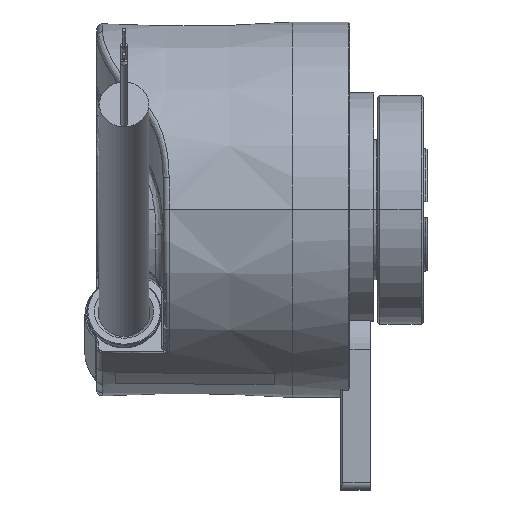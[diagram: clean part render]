
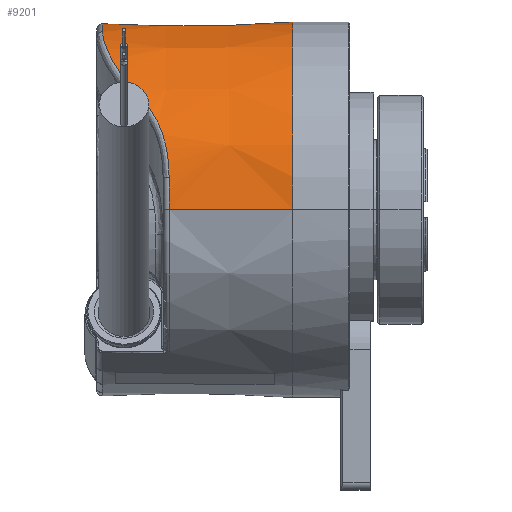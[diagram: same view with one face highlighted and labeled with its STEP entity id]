
A CAD part, top view. The second image highlights one B-rep face of the part: STEP entity #9201.
In plain terms, the highlighted conical face has half-angle 0.5 degrees and reference radius 25.4 mm.
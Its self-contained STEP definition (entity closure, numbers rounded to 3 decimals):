
#220 = CARTESIAN_POINT ( 'NONE',  ( -19.657, 21.761, 12.69 ) ) ;
#286 = VERTEX_POINT ( 'NONE', #41892 ) ;
#305 = CARTESIAN_POINT ( 'NONE',  ( -13.666, 13.417, 21.374 ) ) ;
#1410 = EDGE_CURVE ( 'NONE', #20995, #7298, #31353, .T. ) ;
#1813 = VERTEX_POINT ( 'NONE', #23466 ) ;
#2026 = CARTESIAN_POINT ( 'NONE',  ( -14.829, 14.821, 20.409 ) ) ;
#2071 = EDGE_CURVE ( 'NONE', #14562, #11926, #4915, .T. ) ;
#3380 = VERTEX_POINT ( 'NONE', #11706 ) ;
#3425 = CARTESIAN_POINT ( 'NONE',  ( -14.829, 14.821, 20.409 ) ) ;
#3429 = B_SPLINE_CURVE_WITH_KNOTS ( 'NONE', 3,
 ( #39334, #23248, #26482, #7121 ),
 .UNSPECIFIED., .F., .F.,
 ( 4, 4 ),
 ( 0., 0.022 ),
 .UNSPECIFIED. ) ;
#3471 = CARTESIAN_POINT ( 'NONE',  ( -19.128, 20.62, 14.476 ) ) ;
#3575 = CARTESIAN_POINT ( 'NONE',  ( -12.718, 11.858, 22.301 ) ) ;
#3695 = VERTEX_POINT ( 'NONE', #20944 ) ;
#3877 = ORIENTED_EDGE ( 'NONE', *, *, #33075, .F. ) ;
#4915 = CIRCLE ( 'NONE', #36817, 25.254 ) ;
#5829 = DIRECTION ( 'NONE',  ( 1., 0., 0. ) ) ;
#5952 = CARTESIAN_POINT ( 'NONE',  ( 5.5, 0., 25.4 ) ) ;
#6740 = CARTESIAN_POINT ( 'NONE',  ( -18.425, 19.383, 16.104 ) ) ;
#6798 = DIRECTION ( 'NONE',  ( 0., 0., 1. ) ) ;
#6822 = CARTESIAN_POINT ( 'NONE',  ( -11.899, 9.672, 23.327 ) ) ;
#6887 = VECTOR ( 'NONE', #22786, 1000. ) ;
#6896 = EDGE_LOOP ( 'NONE', ( #23925, #29060, #3877, #8783, #7470, #29102, #38132 ) ) ;
#7121 = CARTESIAN_POINT ( 'NONE',  ( 3., 22.222, -12.257 ) ) ;
#7298 = VERTEX_POINT ( 'NONE', #23984 ) ;
#7470 = ORIENTED_EDGE ( 'NONE', *, *, #1410, .T. ) ;
#7969 = VECTOR ( 'NONE', #28697, 1000. ) ;
#8016 = CARTESIAN_POINT ( 'NONE',  ( -11.207, 4.33, 24.88 ) ) ;
#8401 = CARTESIAN_POINT ( 'NONE',  ( -11.207, 0., 0. ) ) ;
#8636 = EDGE_CURVE ( 'NONE', #1813, #40896, #23912, .T. ) ;
#8783 = ORIENTED_EDGE ( 'NONE', *, *, #19804, .F. ) ;
#8803 = CARTESIAN_POINT ( 'NONE',  ( 5.5, 0., 0. ) ) ;
#9030 = B_SPLINE_CURVE_WITH_KNOTS ( 'NONE', 3,
 ( #3425, #9932, #19717, #305, #22967, #3575, #26187, #6822, #29413, #10077, #32641, #13354, #35909, #16621 ),
 .UNSPECIFIED., .F., .F.,
 ( 4, 2, 2, 2, 2, 2, 4 ),
 ( 0., 0.002, 0.003, 0.006, 0.008, 0.009, 0.012 ),
 .UNSPECIFIED. ) ;
#9201 = ADVANCED_FACE ( 'NONE', ( #9377, #29730 ), #34457, .T. ) ;
#9377 = FACE_BOUND ( 'NONE', #28483, .T. ) ;
#9914 = AXIS2_PLACEMENT_3D ( 'NONE', #38938, #32420, #13120 ) ;
#9932 = CARTESIAN_POINT ( 'NONE',  ( -14.513, 14.492, 20.651 ) ) ;
#9970 = CARTESIAN_POINT ( 'NONE',  ( -17.544, 18.06, 17.585 ) ) ;
#10077 = CARTESIAN_POINT ( 'NONE',  ( -11.557, 8.265, 23.865 ) ) ;
#10678 = LINE ( 'NONE', #32202, #6887 ) ;
#11443 = AXIS2_PLACEMENT_3D ( 'NONE', #8803, #31423, #12121 ) ;
#11659 = ORIENTED_EDGE ( 'NONE', *, *, #8636, .T. ) ;
#11706 = CARTESIAN_POINT ( 'NONE',  ( 5.5, 0., 25.4 ) ) ;
#11878 = CIRCLE ( 'NONE', #41435, 25.378 ) ;
#11926 = VERTEX_POINT ( 'NONE', #39585 ) ;
#12003 = DIRECTION ( 'NONE',  ( 1., 0., 0. ) ) ;
#12121 = DIRECTION ( 'NONE',  ( 0., 0., -1. ) ) ;
#12601 = DIRECTION ( 'NONE',  ( -1., 0., 0. ) ) ;
#13120 = DIRECTION ( 'NONE',  ( 0., 1., 0. ) ) ;
#13264 = CARTESIAN_POINT ( 'NONE',  ( -15.723, 15.751, 19.724 ) ) ;
#13354 = CARTESIAN_POINT ( 'NONE',  ( -11.268, 6.338, 24.466 ) ) ;
#14562 = VERTEX_POINT ( 'NONE', #8016 ) ;
#14835 = ORIENTED_EDGE ( 'NONE', *, *, #18267, .T. ) ;
#14883 = CARTESIAN_POINT ( 'NONE',  ( -4.167, 23.616, -9.12 ) ) ;
#14922 = ORIENTED_EDGE ( 'NONE', *, *, #34667, .T. ) ;
#16621 = CARTESIAN_POINT ( 'NONE',  ( -11.207, 4.33, 24.88 ) ) ;
#16744 = B_SPLINE_CURVE_WITH_KNOTS ( 'NONE', 3,
 ( #25819, #32423, #38940, #19609, #220, #22877, #3471, #26095, #6740, #29322, #9970, #32561, #13264, #35806 ),
 .UNSPECIFIED., .F., .F.,
 ( 4, 2, 2, 2, 2, 2, 4 ),
 ( 0., 0.004, 0.006, 0.009, 0.011, 0.013, 0.017 ),
 .UNSPECIFIED. ) ;
#18060 = EDGE_CURVE ( 'NONE', #11926, #3380, #26192, .T. ) ;
#18267 = EDGE_CURVE ( 'NONE', #286, #1813, #32355, .T. ) ;
#18973 = AXIS2_PLACEMENT_3D ( 'NONE', #37911, #5829, #34785 ) ;
#19508 = CARTESIAN_POINT ( 'NONE',  ( -20.207, 0., -25.176 ) ) ;
#19609 = CARTESIAN_POINT ( 'NONE',  ( -19.793, 22.111, 12.067 ) ) ;
#19668 = AXIS2_PLACEMENT_3D ( 'NONE', #27222, #12003, #24438 ) ;
#19717 = CARTESIAN_POINT ( 'NONE',  ( -14.217, 14.146, 20.894 ) ) ;
#19804 = EDGE_CURVE ( 'NONE', #20995, #3695, #10678, .T. ) ;
#20197 = EDGE_CURVE ( 'NONE', #7298, #37291, #16744, .T. ) ;
#20944 = CARTESIAN_POINT ( 'NONE',  ( 5.5, 0., -25.4 ) ) ;
#20995 = VERTEX_POINT ( 'NONE', #19508 ) ;
#21393 = CARTESIAN_POINT ( 'NONE',  ( -18.5, 23.501, -9.071 ) ) ;
#22786 = DIRECTION ( 'NONE',  ( 1., 0., -0.009 ) ) ;
#22877 = CARTESIAN_POINT ( 'NONE',  ( -19.324, 21.012, 13.899 ) ) ;
#22967 = CARTESIAN_POINT ( 'NONE',  ( -13.412, 13.037, 21.611 ) ) ;
#23248 = CARTESIAN_POINT ( 'NONE',  ( -11.333, 22.11, -12.201 ) ) ;
#23466 = CARTESIAN_POINT ( 'NONE',  ( -18.5, 23.501, -9.071 ) ) ;
#23912 = CIRCLE ( 'NONE', #9914, 25.191 ) ;
#23925 = ORIENTED_EDGE ( 'NONE', *, *, #2071, .T. ) ;
#23984 = CARTESIAN_POINT ( 'NONE',  ( -20.207, 24.055, 7.427 ) ) ;
#24438 = DIRECTION ( 'NONE',  ( 0., 0., -1. ) ) ;
#25775 = EDGE_CURVE ( 'NONE', #37291, #14562, #9030, .T. ) ;
#25819 = CARTESIAN_POINT ( 'NONE',  ( -20.207, 24.055, 7.427 ) ) ;
#26095 = CARTESIAN_POINT ( 'NONE',  ( -18.679, 19.805, 15.579 ) ) ;
#26146 = EDGE_CURVE ( 'NONE', #286, #32815, #11878, .T. ) ;
#26187 = CARTESIAN_POINT ( 'NONE',  ( -12.342, 11.018, 22.734 ) ) ;
#26192 = LINE ( 'NONE', #5952, #7969 ) ;
#26482 = CARTESIAN_POINT ( 'NONE',  ( -4.167, 22.166, -12.229 ) ) ;
#27222 = CARTESIAN_POINT ( 'NONE',  ( 5.5, 0., 0. ) ) ;
#27325 = ORIENTED_EDGE ( 'NONE', *, *, #26146, .F. ) ;
#28483 = EDGE_LOOP ( 'NONE', ( #14835, #11659, #14922, #27325 ) ) ;
#28697 = DIRECTION ( 'NONE',  ( 1., 0., 0.009 ) ) ;
#29060 = ORIENTED_EDGE ( 'NONE', *, *, #18060, .T. ) ;
#29102 = ORIENTED_EDGE ( 'NONE', *, *, #20197, .T. ) ;
#29322 = CARTESIAN_POINT ( 'NONE',  ( -17.858, 18.51, 17.107 ) ) ;
#29413 = CARTESIAN_POINT ( 'NONE',  ( -11.771, 9.207, 23.516 ) ) ;
#29730 = FACE_OUTER_BOUND ( 'NONE', #6896, .T. ) ;
#30243 = CARTESIAN_POINT ( 'NONE',  ( 3., 22.222, -12.257 ) ) ;
#30940 = CARTESIAN_POINT ( 'NONE',  ( 3., 23.674, -9.144 ) ) ;
#31353 = CIRCLE ( 'NONE', #18973, 25.176 ) ;
#31423 = DIRECTION ( 'NONE',  ( 1., 0., 0. ) ) ;
#31593 = DIRECTION ( 'NONE',  ( 1., 0., 0. ) ) ;
#31736 = CIRCLE ( 'NONE', #11443, 25.4 ) ;
#31914 = CARTESIAN_POINT ( 'NONE',  ( 3., 0., 0. ) ) ;
#32202 = CARTESIAN_POINT ( 'NONE',  ( 5.5, 0., -25.4 ) ) ;
#32355 = B_SPLINE_CURVE_WITH_KNOTS ( 'NONE', 3,
 ( #30940, #14883, #40704, #21393 ),
 .UNSPECIFIED., .F., .F.,
 ( 4, 4 ),
 ( 0., 0.022 ),
 .UNSPECIFIED. ) ;
#32420 = DIRECTION ( 'NONE',  ( -1., 0., 0. ) ) ;
#32423 = CARTESIAN_POINT ( 'NONE',  ( -20.207, 23.624, 8.823 ) ) ;
#32561 = CARTESIAN_POINT ( 'NONE',  ( -16.513, 16.684, 18.94 ) ) ;
#32641 = CARTESIAN_POINT ( 'NONE',  ( -11.471, 7.788, 24.026 ) ) ;
#32815 = VERTEX_POINT ( 'NONE', #30243 ) ;
#33075 = EDGE_CURVE ( 'NONE', #3695, #3380, #31736, .T. ) ;
#34457 = CONICAL_SURFACE ( 'NONE', #19668, 25.4, 0.009 ) ;
#34667 = EDGE_CURVE ( 'NONE', #40896, #32815, #3429, .T. ) ;
#34785 = DIRECTION ( 'NONE',  ( 0., 0., -1. ) ) ;
#35128 = DIRECTION ( 'NONE',  ( 0., 1., 0. ) ) ;
#35806 = CARTESIAN_POINT ( 'NONE',  ( -14.829, 14.821, 20.409 ) ) ;
#35909 = CARTESIAN_POINT ( 'NONE',  ( -11.207, 5.346, 24.703 ) ) ;
#36817 = AXIS2_PLACEMENT_3D ( 'NONE', #8401, #31593, #6798 ) ;
#37291 = VERTEX_POINT ( 'NONE', #2026 ) ;
#37911 = CARTESIAN_POINT ( 'NONE',  ( -20.207, 0., 0. ) ) ;
#38132 = ORIENTED_EDGE ( 'NONE', *, *, #25775, .T. ) ;
#38938 = CARTESIAN_POINT ( 'NONE',  ( -18.5, 0., 0. ) ) ;
#38940 = CARTESIAN_POINT ( 'NONE',  ( -20.111, 23.081, 10.157 ) ) ;
#39334 = CARTESIAN_POINT ( 'NONE',  ( -18.5, 22.055, -12.172 ) ) ;
#39585 = CARTESIAN_POINT ( 'NONE',  ( -11.207, 0., 25.254 ) ) ;
#40704 = CARTESIAN_POINT ( 'NONE',  ( -11.333, 23.558, -9.095 ) ) ;
#40896 = VERTEX_POINT ( 'NONE', #41880 ) ;
#41435 = AXIS2_PLACEMENT_3D ( 'NONE', #31914, #12601, #35128 ) ;
#41880 = CARTESIAN_POINT ( 'NONE',  ( -18.5, 22.055, -12.172 ) ) ;
#41892 = CARTESIAN_POINT ( 'NONE',  ( 3., 23.674, -9.144 ) ) ;
